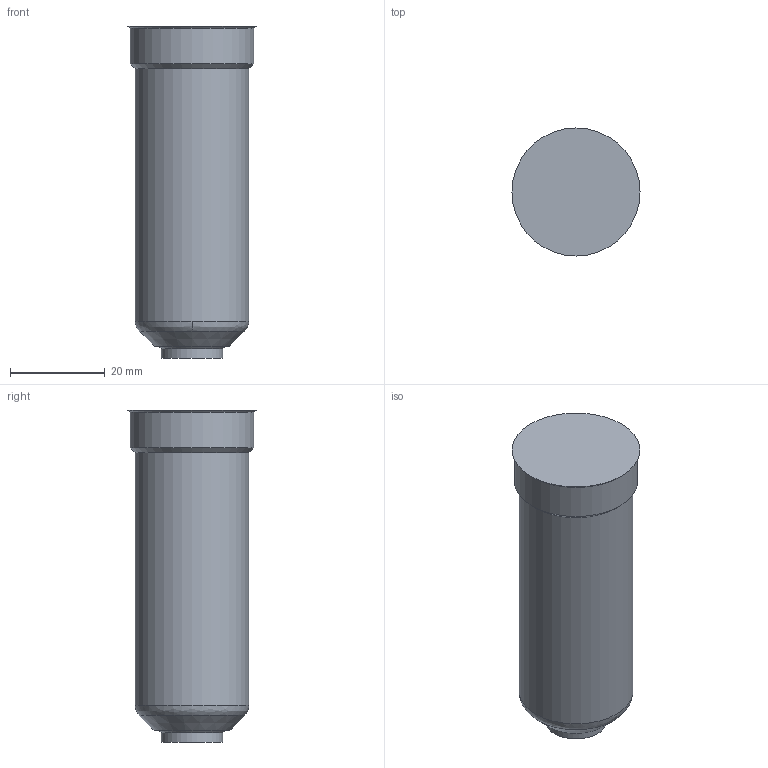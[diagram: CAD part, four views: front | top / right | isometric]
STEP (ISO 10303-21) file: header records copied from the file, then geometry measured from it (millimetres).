
FILE_DESCRIPTION(('STEP AP214'),'1');
FILE_NAME('SEDE FLM3-C.stp','2018-06-12T09:02:15',(' '),(' '),'Spatial InterOp 3D',' ',' ');
FILE_SCHEMA(('AUTOMOTIVE_DESIGN { 1 0 10303 214 1 1 1 1 }'));
Length unit declared in the file: millimetre
Products named in the file (1): 1
Bounding box: 27 x 27 x 70 mm (x, y, z)
Volume: 31000.2 mm3; surface area: 6100.5 mm2
Topology: 1 solids, 1 shells, 12 faces, 23 edges, 14 vertices
Faces by surface type: cone 4, cylinder 3, plane 3, bspline 2
Full cylindrical faces by diameter (mm): 13 x1, 24 x1, 26 x1
Entity records: 391 total; most frequent: CARTESIAN_POINT 69, DIRECTION 50, ORIENTED_EDGE 28, AXIS2_PLACEMENT_3D 25, EDGE_LOOP 20, FACE_OUTER_BOUND 15, EDGE_CURVE 14, CIRCLE 14
